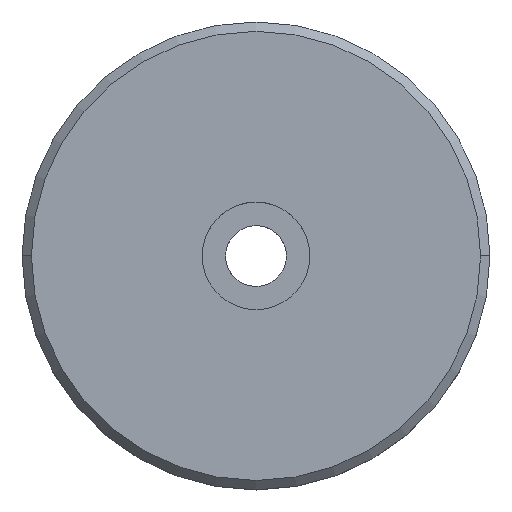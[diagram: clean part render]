
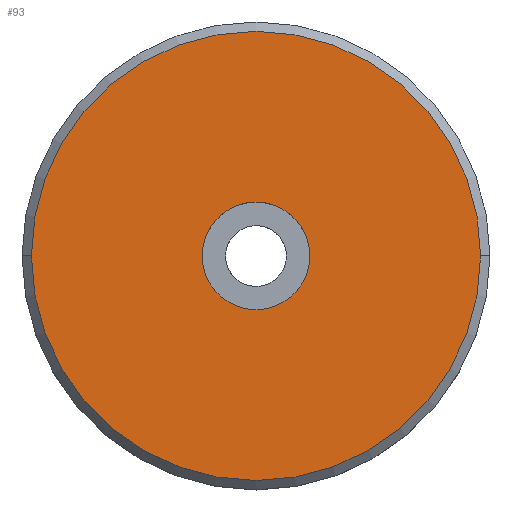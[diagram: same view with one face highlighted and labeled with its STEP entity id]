
A CAD part, top view. The second image highlights one B-rep face of the part: STEP entity #93.
In plain terms, the highlighted planar face has unit normal (0, 0, 1).
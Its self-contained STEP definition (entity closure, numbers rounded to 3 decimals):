
#52=CARTESIAN_POINT('Axis2P3D Location',(0.,0.,25.)) ;
#57=CARTESIAN_POINT('Axis2P3D Location',(0.,0.,25.)) ;
#61=CARTESIAN_POINT('Vertex',(-48.,0.,25.)) ;
#63=CARTESIAN_POINT('Vertex',(48.,0.,25.)) ;
#66=CARTESIAN_POINT('Axis2P3D Location',(0.,0.,25.)) ;
#75=CARTESIAN_POINT('Axis2P3D Location',(0.,0.,25.)) ;
#79=CARTESIAN_POINT('Vertex',(11.5,0.,25.)) ;
#81=CARTESIAN_POINT('Vertex',(-11.5,0.,25.)) ;
#84=CARTESIAN_POINT('Axis2P3D Location',(0.,0.,25.)) ;
#53=DIRECTION('Axis2P3D Direction',(0.,0.,1.)) ;
#54=DIRECTION('Axis2P3D XDirection',(1.,0.,0.)) ;
#58=DIRECTION('Axis2P3D Direction',(0.,0.,1.)) ;
#67=DIRECTION('Axis2P3D Direction',(0.,0.,1.)) ;
#76=DIRECTION('Axis2P3D Direction',(0.,0.,1.)) ;
#85=DIRECTION('Axis2P3D Direction',(0.,0.,1.)) ;
#55=AXIS2_PLACEMENT_3D('Plane Axis2P3D',#52,#53,#54) ;
#59=AXIS2_PLACEMENT_3D('Circle Axis2P3D',#57,#58,$) ;
#68=AXIS2_PLACEMENT_3D('Circle Axis2P3D',#66,#67,$) ;
#77=AXIS2_PLACEMENT_3D('Circle Axis2P3D',#75,#76,$) ;
#86=AXIS2_PLACEMENT_3D('Circle Axis2P3D',#84,#85,$) ;
#72=ORIENTED_EDGE('',*,*,#65,.T.) ;
#73=ORIENTED_EDGE('',*,*,#70,.T.) ;
#90=ORIENTED_EDGE('',*,*,#83,.F.) ;
#91=ORIENTED_EDGE('',*,*,#88,.F.) ;
#92=FACE_BOUND('',#89,.T.) ;
#93=ADVANCED_FACE('NONE',(#74,#92),#56,.T.) ;
#60=CIRCLE('generated circle',#59,48.) ;
#69=CIRCLE('generated circle',#68,48.) ;
#78=CIRCLE('generated circle',#77,11.5) ;
#87=CIRCLE('generated circle',#86,11.5) ;
#65=EDGE_CURVE('',#62,#64,#60,.T.) ;
#70=EDGE_CURVE('',#64,#62,#69,.T.) ;
#83=EDGE_CURVE('',#80,#82,#78,.T.) ;
#88=EDGE_CURVE('',#82,#80,#87,.T.) ;
#71=EDGE_LOOP('',(#72,#73)) ;
#89=EDGE_LOOP('',(#90,#91)) ;
#74=FACE_OUTER_BOUND('',#71,.T.) ;
#56=PLANE('Plane',#55) ;
#62=VERTEX_POINT('',#61) ;
#64=VERTEX_POINT('',#63) ;
#80=VERTEX_POINT('',#79) ;
#82=VERTEX_POINT('',#81) ;
